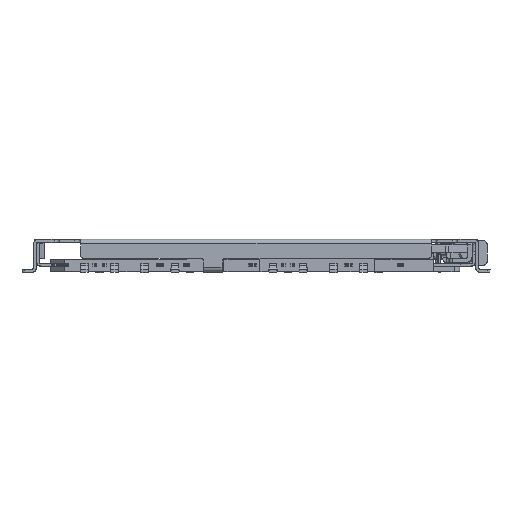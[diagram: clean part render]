
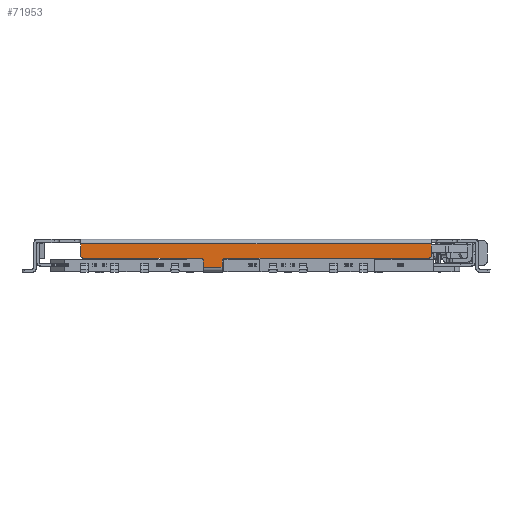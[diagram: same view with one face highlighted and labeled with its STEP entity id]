
A CAD part, top view. The second image highlights one B-rep face of the part: STEP entity #71953.
In plain terms, the highlighted planar face has unit normal (0, 0, 1) as drawn and (0, -1, 0) by its records, which use the part's own axes.
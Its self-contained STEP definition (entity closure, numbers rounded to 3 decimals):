
#65231=CARTESIAN_POINT('',(2.95,0.,1.15));
#65232=DIRECTION('',(0.,-1.,0.));
#65233=DIRECTION('',(-1.,0.,0.));
#65234=AXIS2_PLACEMENT_3D('',#65231,#65232,#65233);
#65236=DIRECTION('',(1.,0.,0.));
#65237=VECTOR('',#65236,6.2);
#65238=CARTESIAN_POINT('',(2.95,0.,1.));
#65239=LINE('',#65238,#65237);
#65240=CARTESIAN_POINT('',(9.15,0.,0.85));
#65241=DIRECTION('',(0.,1.,0.));
#65242=DIRECTION('',(0.,0.,1.));
#65243=AXIS2_PLACEMENT_3D('',#65240,#65241,#65242);
#65245=DIRECTION('',(0.,0.,-1.));
#65246=VECTOR('',#65245,0.6);
#65247=CARTESIAN_POINT('',(9.3,0.,0.85));
#65248=LINE('',#65247,#65246);
#65249=CARTESIAN_POINT('',(-9.15,0.,0.85));
#65250=DIRECTION('',(0.,1.,0.));
#65251=DIRECTION('',(-1.,0.,0.));
#65252=AXIS2_PLACEMENT_3D('',#65249,#65250,#65251);
#65254=DIRECTION('',(1.,0.,0.));
#65255=VECTOR('',#65254,10.8);
#65256=CARTESIAN_POINT('',(-9.15,0.,1.));
#65257=LINE('',#65256,#65255);
#65258=CARTESIAN_POINT('',(1.65,0.,1.15));
#65259=DIRECTION('',(0.,-1.,0.));
#65260=DIRECTION('',(0.,0.,-1.));
#65261=AXIS2_PLACEMENT_3D('',#65258,#65259,#65260);
#65263=DIRECTION('',(0.,0.,1.));
#65264=VECTOR('',#65263,0.342);
#65265=CARTESIAN_POINT('',(1.8,0.,1.15));
#65266=LINE('',#65265,#65264);
#65280=DIRECTION('',(0.,0.,1.));
#65281=VECTOR('',#65280,0.342);
#65282=CARTESIAN_POINT('',(2.8,0.,1.15));
#65283=LINE('',#65282,#65281);
#65327=DIRECTION('',(-1.,0.,0.));
#65328=VECTOR('',#65327,1.);
#65329=CARTESIAN_POINT('',(2.8,0.,1.492));
#65330=LINE('',#65329,#65328);
#65365=DIRECTION('',(0.,0.,-1.));
#65366=VECTOR('',#65365,0.6);
#65367=CARTESIAN_POINT('',(-9.3,0.,0.85));
#65368=LINE('',#65367,#65366);
#65383=DIRECTION('',(1.,0.,0.));
#65384=VECTOR('',#65383,18.6);
#65385=CARTESIAN_POINT('',(-9.3,0.,0.25));
#65386=LINE('',#65385,#65384);
#67795=CARTESIAN_POINT('',(9.3,0.,0.85));
#67797=VERTEX_POINT('',#67795);
#67800=CARTESIAN_POINT('',(9.3,0.,0.25));
#67801=VERTEX_POINT('',#67800);
#67802=CARTESIAN_POINT('',(9.15,0.,1.));
#67804=VERTEX_POINT('',#67802);
#67807=CARTESIAN_POINT('',(2.95,0.,1.));
#67809=VERTEX_POINT('',#67807);
#67810=CARTESIAN_POINT('',(2.8,0.,1.15));
#67811=VERTEX_POINT('',#67810);
#67814=CARTESIAN_POINT('',(2.8,0.,1.492));
#67815=VERTEX_POINT('',#67814);
#67816=CARTESIAN_POINT('',(-9.3,0.,0.25));
#67817=VERTEX_POINT('',#67816);
#67818=CARTESIAN_POINT('',(-9.3,0.,0.85));
#67819=VERTEX_POINT('',#67818);
#67820=CARTESIAN_POINT('',(-9.15,0.,1.));
#67821=VERTEX_POINT('',#67820);
#67822=CARTESIAN_POINT('',(1.65,0.,1.));
#67823=VERTEX_POINT('',#67822);
#67824=CARTESIAN_POINT('',(1.8,0.,1.15));
#67825=VERTEX_POINT('',#67824);
#67826=CARTESIAN_POINT('',(1.8,0.,1.492));
#67827=VERTEX_POINT('',#67826);
#71926=CARTESIAN_POINT('',(-9.3,0.,1.));
#71927=DIRECTION('',(0.,-1.,0.));
#71928=DIRECTION('',(0.,0.,-1.));
#71929=AXIS2_PLACEMENT_3D('',#71926,#71927,#71928);
#71930=PLANE('',#71929);
#71932=ORIENTED_EDGE('',*,*,#71931,.F.);
#71933=ORIENTED_EDGE('',*,*,#71917,.T.);
#71934=ORIENTED_EDGE('',*,*,#71906,.T.);
#71935=ORIENTED_EDGE('',*,*,#71891,.T.);
#71936=ORIENTED_EDGE('',*,*,#71876,.T.);
#71938=ORIENTED_EDGE('',*,*,#71937,.F.);
#71940=ORIENTED_EDGE('',*,*,#71939,.F.);
#71942=ORIENTED_EDGE('',*,*,#71941,.T.);
#71944=ORIENTED_EDGE('',*,*,#71943,.T.);
#71946=ORIENTED_EDGE('',*,*,#71945,.T.);
#71948=ORIENTED_EDGE('',*,*,#71947,.T.);
#71950=ORIENTED_EDGE('',*,*,#71949,.F.);
#71951=EDGE_LOOP('',(#71932,#71933,#71934,#71935,#71936,#71938,#71940,#71942,
#71944,#71946,#71948,#71950));
#71952=FACE_OUTER_BOUND('',#71951,.F.);
#71953=ADVANCED_FACE('',(#71952),#71930,.T.);
#65235=CIRCLE('',#65234,0.15);
#65244=CIRCLE('',#65243,0.15);
#65253=CIRCLE('',#65252,0.15);
#65262=CIRCLE('',#65261,0.15);
#71876=EDGE_CURVE('',#67797,#67801,#65248,.T.);
#71891=EDGE_CURVE('',#67804,#67797,#65244,.T.);
#71906=EDGE_CURVE('',#67809,#67804,#65239,.T.);
#71917=EDGE_CURVE('',#67811,#67809,#65235,.T.);
#71931=EDGE_CURVE('',#67811,#67815,#65283,.T.);
#71937=EDGE_CURVE('',#67817,#67801,#65386,.T.);
#71939=EDGE_CURVE('',#67819,#67817,#65368,.T.);
#71941=EDGE_CURVE('',#67819,#67821,#65253,.T.);
#71943=EDGE_CURVE('',#67821,#67823,#65257,.T.);
#71945=EDGE_CURVE('',#67823,#67825,#65262,.T.);
#71947=EDGE_CURVE('',#67825,#67827,#65266,.T.);
#71949=EDGE_CURVE('',#67815,#67827,#65330,.T.);
